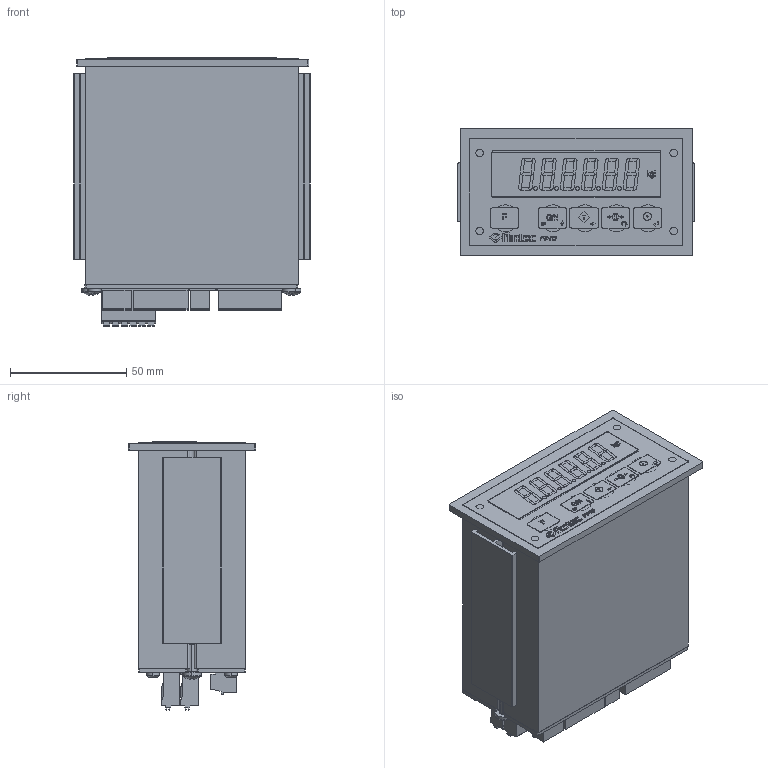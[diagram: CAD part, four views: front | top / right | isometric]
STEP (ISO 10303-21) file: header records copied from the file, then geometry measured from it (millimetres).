
FILE_DESCRIPTION (( 'STEP AP214' ), '1' );
FILE_NAME ('FLINTEC_FT10_3D.STEP', '2019-02-12T07:48:39', ( 'Önder' ), ( '' ), 'SwSTEP 2.0', 'SolidWorks 2017', '' );
FILE_SCHEMA (( 'AUTOMOTIVE_DESIGN' ));
Length unit declared in the file: millimetre
Products named in the file (25): pan head cross recess screw_din_DIN EN ISO 7045 - M4 x 12 - Z - 12N; Flintec_Tuþ_Takýmý; pan head cross recess screw_din_DIN EN ISO 7045 - M3 x 8 - Z - 8N; MOD_ABCC_2xRJ45_with_housing; yan_profil; ABCC med housing_ABCC SERCOS III; Arka_Sac; RA0649; 霵_panel; SP0795; Panel_Profil; CON_FMC-1-5-6-ST-3-81_3D_1748011_02; fmc_1.5-6-st-3.81; FLINTEC_FT10_3D; CON_MCDN-1-5-6-G1-3-81-P26THR_3D_1749560_01; mcdn_1.5-6-g1_3.81_p26_thr; 1803633_MC_1,5-8-G-3,81_3D; 1803617_MC_1,5-6-ST-3,81_3D; 1803581_MC_1,5-3-ST-3,81; 1803578_MC_1,5-2-ST-3,81_3D; 1803329_MC_1,5-7-G-3,81_3D; 1803316_MC_1,5-6-G-3,81_3D; 1803280_MC_1,5-3-G-3,81_3D; 1803277_MC_1,5-2-G-3,81_3D; Display
Assembly tree (32 placements, depth 4):
  FLINTEC_FT10_3D
    Panel_Profil
    霵_panel
    Arka_Sac
    yan_profil  x2
    pan head cross recess screw_din_DIN EN ISO 7045 - M3 x 8 - Z - 8N  x4
    pan head cross recess screw_din_DIN EN ISO 7045 - M4 x 12 - Z - 12N  x2
    Display
    1803277_MC_1,5-2-G-3,81_3D
    1803280_MC_1,5-3-G-3,81_3D
    1803316_MC_1,5-6-G-3,81_3D
    1803329_MC_1,5-7-G-3,81_3D
    1803578_MC_1,5-2-ST-3,81_3D
    1803581_MC_1,5-3-ST-3,81
    1803617_MC_1,5-6-ST-3,81_3D
    1803633_MC_1,5-8-G-3,81_3D
    CON_MCDN-1-5-6-G1-3-81-P26THR_3D_1749560_01
      mcdn_1.5-6-g1_3.81_p26_thr
    CON_FMC-1-5-6-ST-3-81_3D_1748011_02  x2
      fmc_1.5-6-st-3.81
    MOD_ABCC_2xRJ45_with_housing
      ABCC med housing_ABCC SERCOS III
        SP0795  x2
        RA0649  x2
    Flintec_Tuþ_Takýmý
Bounding box: 101.9 x 55 x 115.4 mm (x, y, z)
Volume: 398329.8 mm3; surface area: 111753.1 mm2
Topology: 28 solids, 28 shells, 6879 faces, 18337 edges, 11950 vertices
Faces by surface type: plane 4623, cylinder 1422, bspline 580, cone 210, torus 32, sphere 12
Entity records: 230587 total; most frequent: CARTESIAN_POINT 43447, ORIENTED_EDGE 30026, DIRECTION 26329, EDGE_CURVE 15013, VECTOR 10865, LINE 10865, VERTEX_POINT 9877, AXIS2_PLACEMENT_3D 7732
